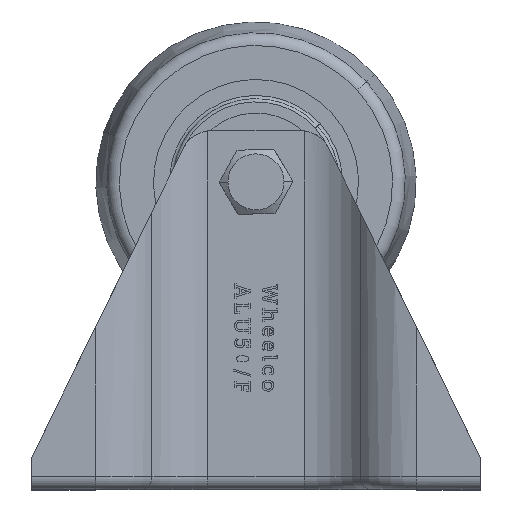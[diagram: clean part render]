
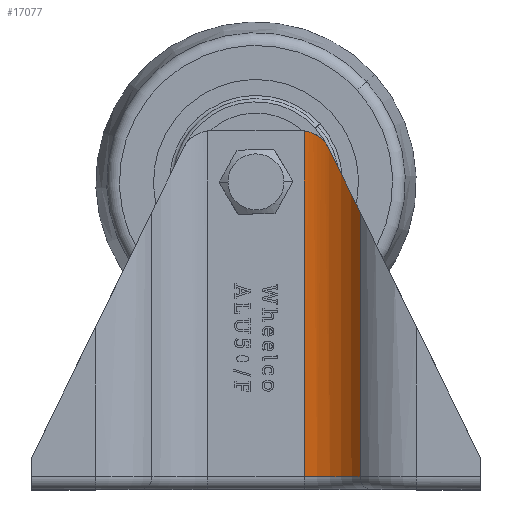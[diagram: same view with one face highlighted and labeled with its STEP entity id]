
A CAD part, top view. The second image highlights one B-rep face of the part: STEP entity #17077.
In plain terms, the highlighted cylindrical face has radius 12 mm (diameter 24 mm), a partial arc.
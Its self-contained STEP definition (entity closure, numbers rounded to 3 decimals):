
#101 = CARTESIAN_POINT ( 'NONE',  ( 16.25, 56., 22.5 ) ) ;
#182 = CYLINDRICAL_SURFACE ( 'NONE', #18900, 12. ) ;
#230 = CARTESIAN_POINT ( 'NONE',  ( 7.5, 55.962, 17.5 ) ) ;
#1020 = DIRECTION ( 'NONE',  ( 0., -1., 0. ) ) ;
#1037 = CARTESIAN_POINT ( 'NONE',  ( 10.13, 54.825, 18.022 ) ) ;
#1050 = CIRCLE ( 'NONE', #6676, 12. ) ;
#1621 = DIRECTION ( 'NONE',  ( 0., -1., 0. ) ) ;
#1688 = EDGE_CURVE ( 'NONE', #4837, #6669, #1050, .T. ) ;
#1910 = CARTESIAN_POINT ( 'NONE',  ( 7.5, 56., 17.5 ) ) ;
#3428 = ORIENTED_EDGE ( 'NONE', *, *, #5802, .F. ) ;
#4196 = CARTESIAN_POINT ( 'NONE',  ( 15.002, 45.796, 20.746 ) ) ;
#4255 = CARTESIAN_POINT ( 'NONE',  ( 7.5, 55.962, 17.5 ) ) ;
#4837 = VERTEX_POINT ( 'NONE', #14243 ) ;
#5802 = EDGE_CURVE ( 'NONE', #13668, #8703, #20930, .T. ) ;
#5818 = CARTESIAN_POINT ( 'NONE',  ( 11.372, 53.201, 18.502 ) ) ;
#5863 = DIRECTION ( 'NONE',  ( 0., 0., 1. ) ) ;
#6669 = VERTEX_POINT ( 'NONE', #13171 ) ;
#6676 = AXIS2_PLACEMENT_3D ( 'NONE', #19482, #1020, #5863 ) ;
#6941 = DIRECTION ( 'NONE',  ( 0., -1., 0. ) ) ;
#7755 = CARTESIAN_POINT ( 'NONE',  ( 10.431, 54.546, 18.124 ) ) ;
#8703 = VERTEX_POINT ( 'NONE', #14749 ) ;
#8811 = ORIENTED_EDGE ( 'NONE', *, *, #11499, .T. ) ;
#9304 = CARTESIAN_POINT ( 'NONE',  ( 7.707, 55.936, 17.518 ) ) ;
#9331 = ORIENTED_EDGE ( 'NONE', *, *, #10679, .F. ) ;
#9416 = CARTESIAN_POINT ( 'NONE',  ( 8.317, 55.794, 17.597 ) ) ;
#9572 = EDGE_LOOP ( 'NONE', ( #8811, #16422, #9331, #11946, #3428 ) ) ;
#10045 =( BOUNDED_CURVE ( )  B_SPLINE_CURVE ( 3, ( #5818, #12573, #4196, #10925 ),
 .UNSPECIFIED., .F., .T. ) 
 B_SPLINE_CURVE_WITH_KNOTS ( ( 4, 4 ),
 ( 5.133, 5.665 ),
 .UNSPECIFIED. ) 
 CURVE ( )  GEOMETRIC_REPRESENTATION_ITEM ( )  RATIONAL_B_SPLINE_CURVE ( ( 1., 0.977, 0.977, 1. ) ) 
 REPRESENTATION_ITEM ( '' )  );
#10679 = EDGE_CURVE ( 'NONE', #12208, #6669, #17466, .T. ) ;
#10848 = EDGE_CURVE ( 'NONE', #8703, #12208, #10045, .T. ) ;
#10925 = CARTESIAN_POINT ( 'NONE',  ( 16.25, 43.25, 22.5 ) ) ;
#11499 = EDGE_CURVE ( 'NONE', #13668, #4837, #15833, .T. ) ;
#11673 = FACE_OUTER_BOUND ( 'NONE', #9572, .T. ) ;
#11946 = ORIENTED_EDGE ( 'NONE', *, *, #10848, .F. ) ;
#12208 = VERTEX_POINT ( 'NONE', #17448 ) ;
#12573 = CARTESIAN_POINT ( 'NONE',  ( 13.337, 49.192, 19.381 ) ) ;
#13171 = CARTESIAN_POINT ( 'NONE',  ( 16.25, 2., 22.5 ) ) ;
#13588 = VECTOR ( 'NONE', #19152, 1000. ) ;
#13668 = VERTEX_POINT ( 'NONE', #230 ) ;
#13669 = DIRECTION ( 'NONE',  ( 0., 0., -1. ) ) ;
#14243 = CARTESIAN_POINT ( 'NONE',  ( 7.5, 2., 17.5 ) ) ;
#14406 = CARTESIAN_POINT ( 'NONE',  ( 8.517, 55.73, 17.63 ) ) ;
#14515 = CARTESIAN_POINT ( 'NONE',  ( 10.959, 53.924, 18.323 ) ) ;
#14749 = CARTESIAN_POINT ( 'NONE',  ( 11.372, 53.201, 18.502 ) ) ;
#14976 = VECTOR ( 'NONE', #6941, 1000. ) ;
#15833 = LINE ( 'NONE', #1910, #13588 ) ;
#16075 = CARTESIAN_POINT ( 'NONE',  ( 7.912, 55.897, 17.541 ) ) ;
#16191 = CARTESIAN_POINT ( 'NONE',  ( 9.459, 55.305, 17.828 ) ) ;
#16422 = ORIENTED_EDGE ( 'NONE', *, *, #1688, .T. ) ;
#16781 = CARTESIAN_POINT ( 'NONE',  ( 6.472, 56., 29.456 ) ) ;
#16936 = CARTESIAN_POINT ( 'NONE',  ( 11.372, 53.201, 18.502 ) ) ;
#17077 = ADVANCED_FACE ( 'NONE', ( #11673 ), #182, .F. ) ;
#17448 = CARTESIAN_POINT ( 'NONE',  ( 16.25, 43.25, 22.5 ) ) ;
#17466 = LINE ( 'NONE', #101, #14976 ) ;
#18900 = AXIS2_PLACEMENT_3D ( 'NONE', #16781, #1621, #13669 ) ;
#19152 = DIRECTION ( 'NONE',  ( 0., -1., 0. ) ) ;
#19482 = CARTESIAN_POINT ( 'NONE',  ( 6.472, 2., 29.456 ) ) ;
#20930 = B_SPLINE_CURVE_WITH_KNOTS ( 'NONE', 3,
 ( #4255, #9304, #16075, #9416, #14406, #21191, #16191, #1037, #7755, #14515, #21292, #16936 ),
 .UNSPECIFIED., .F., .F.,
 ( 4, 2, 2, 2, 2, 4 ),
 ( 0.001, 0.001, 0.002, 0.003, 0.004, 0.006 ),
 .UNSPECIFIED. ) ;
#21191 = CARTESIAN_POINT ( 'NONE',  ( 9.098, 55.502, 17.74 ) ) ;
#21292 = CARTESIAN_POINT ( 'NONE',  ( 11.189, 53.575, 18.42 ) ) ;
